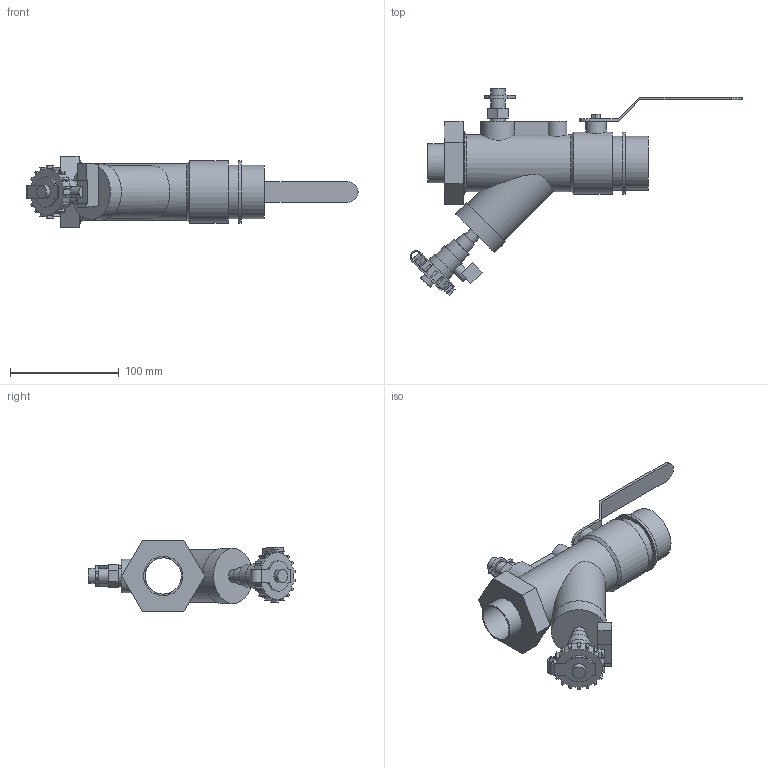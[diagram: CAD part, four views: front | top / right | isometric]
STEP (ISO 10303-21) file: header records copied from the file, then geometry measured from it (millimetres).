
FILE_DESCRIPTION(/* description */ ('VIC Y-STRAINER/BALL SERIES 78Y (FPT)','CAx-IF Rec.Pracs.---Representation and Presentation of Product Manufacturing Information (PMI)---4.0---2014-10-13'),/* implementation_level */ '2;1');
FILE_NAME(/* name */ 'C:\Users\kkamble\Desktop\extraction\OldVersions\Victaulic_IPS_Valve Ball Y Strainer Combination_Series 78Y (FPT)\Victaulic_IPS_Valve Ball Y Strainer Combination_Series 78Y (FPT)_01.25x01.0 (32x25).stp',/* time_stamp */ '2020-10-19T10:39:12+05:00',/* author */ ('kkamble'),/* organization */ ('Victaulic'),/* preprocessor_version */ 'ST-DEVELOPER v17.2',/* originating_system */ 'Autodesk Inventor 2019',/* authorisation */ '');
FILE_SCHEMA (('AP242_MANAGED_MODEL_BASED_3D_ENGINEERING_MIM_LF { 1 0 10303 442 1 1 4 }'));
Length unit declared in the file: inch
Products named in the file (1): 78Y-1.25x1.0
Bounding box: 305.97 x 190.92 x 66.04 mm (x, y, z)
Volume: 300717.7 mm3; surface area: 117415.7 mm2
Topology: 2 solids, 4 shells, 215 faces, 583 edges, 393 vertices
Faces by surface type: plane 145, cylinder 68, cone 2
Full cylindrical faces by diameter (mm): 10.16 x1, 11.887 x1, 12.565 x1, 12.7 x1, 13.462 x5, 15.24 x1, 19.05 x1, 20.32 x1, 22.86 x1, 25.4 x1, 27.94 x1, 33.401 x2, 36.195 x2, 42.164 x3, 43.18 x1, 48.26 x1, 49.53 x2, 50.8 x1, 52.324 x1, 57.15 x1, 57.404 x1, 58.42 x1
Entity records: 7737 total; most frequent: CARTESIAN_POINT 1893, DIRECTION 1208, ORIENTED_EDGE 1166, EDGE_CURVE 583, AXIS2_PLACEMENT_3D 428, VERTEX_POINT 393, LINE 352, VECTOR 352
